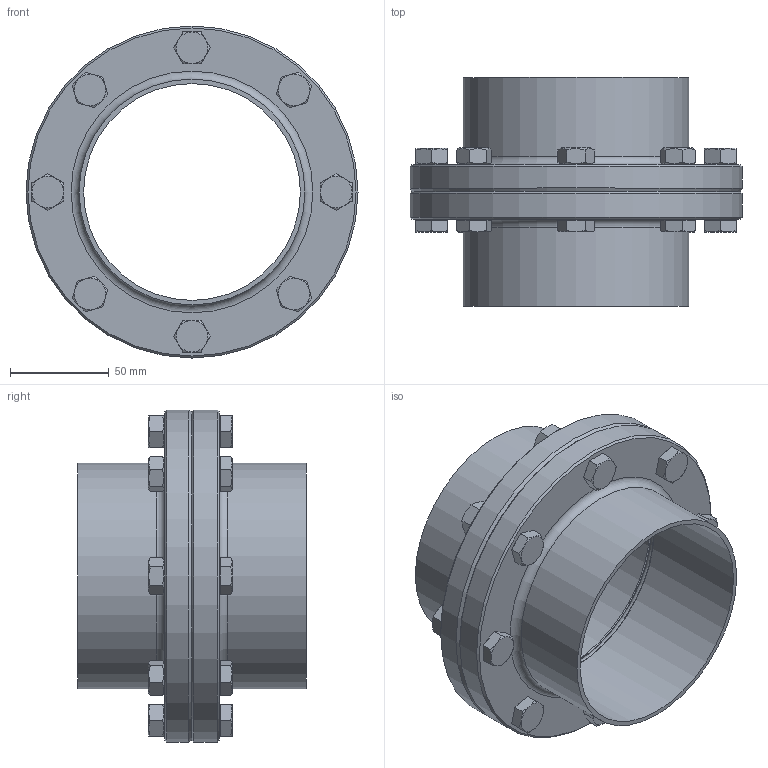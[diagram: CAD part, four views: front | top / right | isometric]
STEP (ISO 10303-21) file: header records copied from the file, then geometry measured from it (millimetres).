
FILE_DESCRIPTION(/* description */ ('DIN11864-2-A_114,3x2_L120_Fl168'),/* implementation_level */ '2;1');
FILE_NAME(/* name */ 'DIN11864-2-A_114,3x2_L120_Fl168.stp',/* time_stamp */ '2015-01-07T13:15:06+01:00',/* author */ ('DOCKWEILER AG'),/* organization */ ('DOCKWEILER AG'),/* preprocessor_version */ 'ST-DEVELOPER v15.6',/* originating_system */ 'Autodesk Inventor 2015',/* authorisation */ '');
FILE_SCHEMA (('CONFIG_CONTROL_DESIGN'));
Length unit declared in the file: millimetre
Products named in the file (6): N0003_007_003_23; N0003_007_004_23; N005_005_002_001_22; ISO 4017 - M10 x 35ISO; ISO 4032 - M10ISO; N0024_002_002
Assembly tree (19 placements, depth 2):
  N0024_002_002
    N0003_007_003_23
    N0003_007_004_23
    N005_005_002_001_22
    ISO 4017 - M10 x 35ISO  x8
    ISO 4032 - M10ISO  x8
Bounding box: 168 x 115.7 x 168 mm (x, y, z)
Volume: 447904.5 mm3; surface area: 169024.8 mm2
Topology: 19 solids, 19 shells, 310 faces, 658 edges, 406 vertices
Faces by surface type: plane 154, cone 96, cylinder 48, torus 12
Full cylindrical faces by diameter (mm): 8.376 x8, 10 x8, 11 x16, 14.63 x8, 109.7 x2, 114.3 x2, 125.6 x1, 125.7 x1, 168 x2
Entity records: 2417 total; most frequent: DIRECTION 416, CARTESIAN_POINT 400, ORIENTED_EDGE 260, AXIS2_PLACEMENT_3D 199, EDGE_LOOP 183, EDGE_CURVE 130, VERTEX_POINT 111, FACE_BOUND 97
